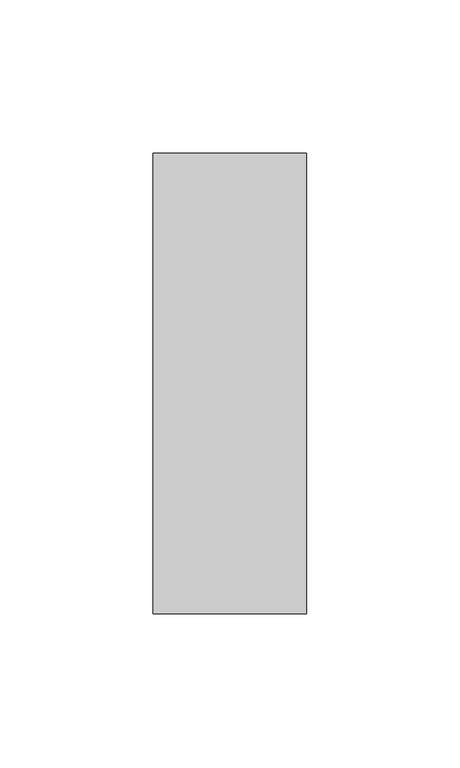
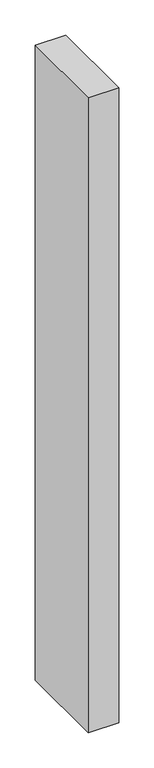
"""IFC4 building model written with IfcOpenShell, lengths in millimetres: member geometry, 矩形竖梃 : 教学楼 – 矩形竖梃 – 50x150mm."""

from ifc_helpers import new_model, si_unit, frame, origin, place, context, project, spatial, polyline, outline, extrude, source, transform, mapped, element, save


def member_0b7842ad(model_context):
    return source(origin(), model_context, "Body", "SweptSolid", [
        extrude(outline(polyline([(25.0, 75.0), (25.0, -75.0), (-25.0, -75.0), (-25.0, 75.0), (25.0, 75.0)])), frame((0.0, 0.0, -1100.0), z_axis=(0.0, 0.0, 1.0), x_axis=(1.0, 0.0, 0.0)), (0.0, 0.0, 1.0), 1100.0),
    ])


if __name__ == "__main__":
    model = new_model("IFC4")
    model_context = context("Model", 3, world=origin())
    ifc_project = project(units=[si_unit("LENGTHUNIT", "METRE", prefix="MILLI")], contexts=[model_context])
    site = spatial("IfcSite", under=ifc_project)
    building = spatial("IfcBuilding", under=site)
    placement = place(None, origin())
    member_shape = member_0b7842ad(model_context)
    element("IfcMember", 1, ObjectType="矩形竖梃 : 教学楼 – 矩形竖梃 – 50x150mm", at=placement, inside=building, context=model_context, shape_type="MappedRepresentation", body=[
        mapped(member_shape, transform((0.0, 0.0, 0.0), x_axis=(1.0, 0.0, 0.0), y_axis=(0.0, 1.0, 0.0), z_axis=(0.0, 0.0, 1.0))),
    ])
    save(model, "model.ifc")
